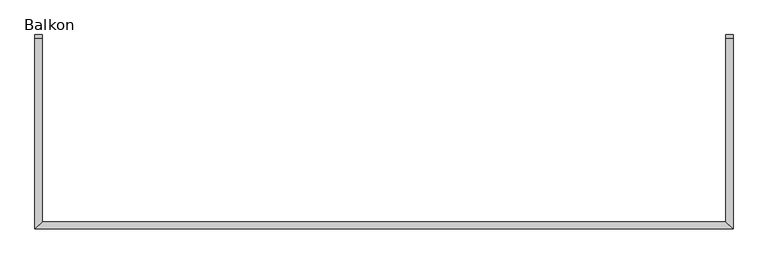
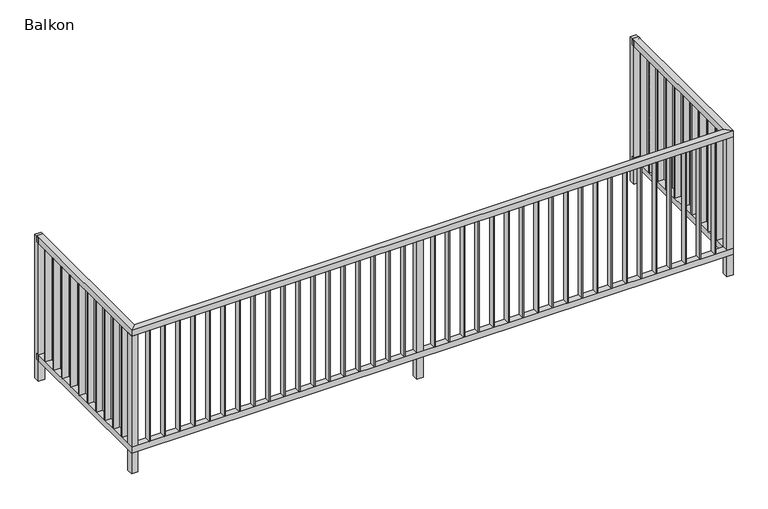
"""IFC4 building model written with IfcOpenShell, lengths in millimetres: railing geometry, Balkon."""

from ifc_helpers import new_model, si_unit, frame, origin, place, context, project, spatial, polyline, outline, extrude, faceted_brep, source, transform, mapped, element, save


def balkon_fbdb0a73(model_context):
    return source(origin(), model_context, "Body", "SolidModel", [
        faceted_brep([(-64686.8216237, -57878.7803424, 1060.0), (-64636.8216237, -57878.7803424, 1060.0), (-64636.8216237, -57878.7803424, 1010.0), (-64686.8216237, -57878.7803424, 1010.0), (-64686.8216237, -59153.7803424, 1060.0), (-64636.8216237, -59203.7803424, 1060.0), (-64636.8216237, -59203.7803424, 1010.0), (-64686.8216237, -59153.7803424, 1010.0), (-69436.8216237, -57878.7803424, 1060.0), (-69436.8216237, -57878.7803424, 1010.0), (-69486.8216237, -57878.7803424, 1010.0), (-69486.8216237, -57878.7803424, 1060.0), (-69486.8216237, -59203.7803424, 1060.0), (-69436.8216237, -59153.7803424, 1060.0), (-69486.8216237, -59203.7803424, 1010.0), (-69436.8216237, -59153.7803424, 1010.0)], [[[0, 1, 2, 3]], [[1, 0, 4, 5]], [[2, 1, 5, 6]], [[3, 2, 6, 7]], [[0, 3, 7, 4]], [[8, 9, 10, 11]], [[12, 13, 8, 11]], [[14, 12, 11, 10]], [[15, 14, 10, 9]], [[13, 15, 9, 8]], [[5, 4, 13, 12]], [[6, 5, 12, 14]], [[7, 6, 14, 15]], [[4, 7, 15, 13]]]),
        faceted_brep([(-64686.8216237, -57878.7803424, 60.0), (-64636.8216237, -57878.7803424, 60.0), (-64636.8216237, -57878.7803424, 10.0), (-64686.8216237, -57878.7803424, 10.0), (-64686.8216237, -59153.7803424, 60.0), (-64636.8216237, -59203.7803424, 60.0), (-64636.8216237, -59203.7803424, 10.0), (-64686.8216237, -59153.7803424, 10.0), (-69436.8216237, -57878.7803424, 60.0), (-69436.8216237, -57878.7803424, 10.0), (-69486.8216237, -57878.7803424, 10.0), (-69486.8216237, -57878.7803424, 60.0), (-69486.8216237, -59203.7803424, 60.0), (-69436.8216237, -59153.7803424, 60.0), (-69486.8216237, -59203.7803424, 10.0), (-69436.8216237, -59153.7803424, 10.0)], [[[0, 1, 2, 3]], [[1, 0, 4, 5]], [[2, 1, 5, 6]], [[3, 2, 6, 7]], [[0, 3, 7, 4]], [[8, 9, 10, 11]], [[12, 13, 8, 11]], [[14, 12, 11, 10]], [[15, 14, 10, 9]], [[13, 15, 9, 8]], [[5, 4, 13, 12]], [[6, 5, 12, 14]], [[7, 6, 14, 15]], [[4, 7, 15, 13]]]),
        extrude(outline(polyline([(-69436.8216237, -57992.9621606), (-69436.8216237, -58000.9621606), (-69486.8216237, -58000.9621606), (-69486.8216237, -57992.9621606), (-69436.8216237, -57992.9621606)])), frame((0.0, 0.0, 60.0), z_axis=(0.0, 0.0, 1.0), x_axis=(1.0, 0.0, 0.0)), (0.0, 0.0, 1.0), 950.0),
        extrude(outline(polyline([(-69436.8216237, -58111.1439787), (-69436.8216237, -58119.1439787), (-69486.8216237, -58119.1439787), (-69486.8216237, -58111.1439787), (-69436.8216237, -58111.1439787)])), frame((0.0, 0.0, 60.0), z_axis=(0.0, 0.0, 1.0), x_axis=(1.0, 0.0, 0.0)), (0.0, 0.0, 1.0), 950.0),
        extrude(outline(polyline([(-69436.8216237, -58229.3257969), (-69436.8216237, -58237.3257969), (-69486.8216237, -58237.3257969), (-69486.8216237, -58229.3257969), (-69436.8216237, -58229.3257969)])), frame((0.0, 0.0, 60.0), z_axis=(0.0, 0.0, 1.0), x_axis=(1.0, 0.0, 0.0)), (0.0, 0.0, 1.0), 950.0),
        extrude(outline(polyline([(-69436.8216237, -58347.5076151), (-69436.8216237, -58355.5076151), (-69486.8216237, -58355.5076151), (-69486.8216237, -58347.5076151), (-69436.8216237, -58347.5076151)])), frame((0.0, 0.0, 60.0), z_axis=(0.0, 0.0, 1.0), x_axis=(1.0, 0.0, 0.0)), (0.0, 0.0, 1.0), 950.0),
        extrude(outline(polyline([(-69436.8216237, -58465.6894333), (-69436.8216237, -58473.6894333), (-69486.8216237, -58473.6894333), (-69486.8216237, -58465.6894333), (-69436.8216237, -58465.6894333)])), frame((0.0, 0.0, 60.0), z_axis=(0.0, 0.0, 1.0), x_axis=(1.0, 0.0, 0.0)), (0.0, 0.0, 1.0), 950.0),
        extrude(outline(polyline([(-69436.8216237, -58583.8712515), (-69436.8216237, -58591.8712515), (-69486.8216237, -58591.8712515), (-69486.8216237, -58583.8712515), (-69436.8216237, -58583.8712515)])), frame((0.0, 0.0, 60.0), z_axis=(0.0, 0.0, 1.0), x_axis=(1.0, 0.0, 0.0)), (0.0, 0.0, 1.0), 950.0),
        extrude(outline(polyline([(-69436.8216237, -58702.0530696), (-69436.8216237, -58710.0530696), (-69486.8216237, -58710.0530696), (-69486.8216237, -58702.0530696), (-69436.8216237, -58702.0530696)])), frame((0.0, 0.0, 60.0), z_axis=(0.0, 0.0, 1.0), x_axis=(1.0, 0.0, 0.0)), (0.0, 0.0, 1.0), 950.0),
        extrude(outline(polyline([(-69436.8216237, -58820.2348878), (-69436.8216237, -58828.2348878), (-69486.8216237, -58828.2348878), (-69486.8216237, -58820.2348878), (-69436.8216237, -58820.2348878)])), frame((0.0, 0.0, 60.0), z_axis=(0.0, 0.0, 1.0), x_axis=(1.0, 0.0, 0.0)), (0.0, 0.0, 1.0), 950.0),
        extrude(outline(polyline([(-69436.8216237, -58938.416706), (-69436.8216237, -58946.416706), (-69486.8216237, -58946.416706), (-69486.8216237, -58938.416706), (-69436.8216237, -58938.416706)])), frame((0.0, 0.0, 60.0), z_axis=(0.0, 0.0, 1.0), x_axis=(1.0, 0.0, 0.0)), (0.0, 0.0, 1.0), 950.0),
        extrude(outline(polyline([(-69436.8216237, -59056.5985242), (-69436.8216237, -59064.5985242), (-69486.8216237, -59064.5985242), (-69486.8216237, -59056.5985242), (-69436.8216237, -59056.5985242)])), frame((0.0, 0.0, 60.0), z_axis=(0.0, 0.0, 1.0), x_axis=(1.0, 0.0, 0.0)), (0.0, 0.0, 1.0), 950.0),
        extrude(outline(polyline([(-69344.7689921, -59153.7803424), (-69336.7689921, -59153.7803424), (-69336.7689921, -59203.7803424), (-69344.7689921, -59203.7803424), (-69344.7689921, -59153.7803424)])), frame((0.0, 0.0, 60.0), z_axis=(0.0, 0.0, 1.0), x_axis=(1.0, 0.0, 0.0)), (0.0, 0.0, 1.0), 950.0),
        extrude(outline(polyline([(-69223.7163606, -59153.7803424), (-69215.7163606, -59153.7803424), (-69215.7163606, -59203.7803424), (-69223.7163606, -59203.7803424), (-69223.7163606, -59153.7803424)])), frame((0.0, 0.0, 60.0), z_axis=(0.0, 0.0, 1.0), x_axis=(1.0, 0.0, 0.0)), (0.0, 0.0, 1.0), 950.0),
        extrude(outline(polyline([(-69102.663729, -59153.7803424), (-69094.663729, -59153.7803424), (-69094.663729, -59203.7803424), (-69102.663729, -59203.7803424), (-69102.663729, -59153.7803424)])), frame((0.0, 0.0, 60.0), z_axis=(0.0, 0.0, 1.0), x_axis=(1.0, 0.0, 0.0)), (0.0, 0.0, 1.0), 950.0),
        extrude(outline(polyline([(-68981.6110974, -59153.7803424), (-68973.6110974, -59153.7803424), (-68973.6110974, -59203.7803424), (-68981.6110974, -59203.7803424), (-68981.6110974, -59153.7803424)])), frame((0.0, 0.0, 60.0), z_axis=(0.0, 0.0, 1.0), x_axis=(1.0, 0.0, 0.0)), (0.0, 0.0, 1.0), 950.0),
        extrude(outline(polyline([(-68860.5584658, -59153.7803424), (-68852.5584658, -59153.7803424), (-68852.5584658, -59203.7803424), (-68860.5584658, -59203.7803424), (-68860.5584658, -59153.7803424)])), frame((0.0, 0.0, 60.0), z_axis=(0.0, 0.0, 1.0), x_axis=(1.0, 0.0, 0.0)), (0.0, 0.0, 1.0), 950.0),
        extrude(outline(polyline([(-68739.5058342, -59153.7803424), (-68731.5058342, -59153.7803424), (-68731.5058342, -59203.7803424), (-68739.5058342, -59203.7803424), (-68739.5058342, -59153.7803424)])), frame((0.0, 0.0, 60.0), z_axis=(0.0, 0.0, 1.0), x_axis=(1.0, 0.0, 0.0)), (0.0, 0.0, 1.0), 950.0),
        extrude(outline(polyline([(-68618.4532027, -59153.7803424), (-68610.4532027, -59153.7803424), (-68610.4532027, -59203.7803424), (-68618.4532027, -59203.7803424), (-68618.4532027, -59153.7803424)])), frame((0.0, 0.0, 60.0), z_axis=(0.0, 0.0, 1.0), x_axis=(1.0, 0.0, 0.0)), (0.0, 0.0, 1.0), 950.0),
        extrude(outline(polyline([(-68497.4005711, -59153.7803424), (-68489.4005711, -59153.7803424), (-68489.4005711, -59203.7803424), (-68497.4005711, -59203.7803424), (-68497.4005711, -59153.7803424)])), frame((0.0, 0.0, 60.0), z_axis=(0.0, 0.0, 1.0), x_axis=(1.0, 0.0, 0.0)), (0.0, 0.0, 1.0), 950.0),
        extrude(outline(polyline([(-68376.3479395, -59153.7803424), (-68368.3479395, -59153.7803424), (-68368.3479395, -59203.7803424), (-68376.3479395, -59203.7803424), (-68376.3479395, -59153.7803424)])), frame((0.0, 0.0, 60.0), z_axis=(0.0, 0.0, 1.0), x_axis=(1.0, 0.0, 0.0)), (0.0, 0.0, 1.0), 950.0),
        extrude(outline(polyline([(-68255.2953079, -59153.7803424), (-68247.2953079, -59153.7803424), (-68247.2953079, -59203.7803424), (-68255.2953079, -59203.7803424), (-68255.2953079, -59153.7803424)])), frame((0.0, 0.0, 60.0), z_axis=(0.0, 0.0, 1.0), x_axis=(1.0, 0.0, 0.0)), (0.0, 0.0, 1.0), 950.0),
        extrude(outline(polyline([(-68134.2426763, -59153.7803424), (-68126.2426763, -59153.7803424), (-68126.2426763, -59203.7803424), (-68134.2426763, -59203.7803424), (-68134.2426763, -59153.7803424)])), frame((0.0, 0.0, 60.0), z_axis=(0.0, 0.0, 1.0), x_axis=(1.0, 0.0, 0.0)), (0.0, 0.0, 1.0), 950.0),
        extrude(outline(polyline([(-68013.1900448, -59153.7803424), (-68005.1900448, -59153.7803424), (-68005.1900448, -59203.7803424), (-68013.1900448, -59203.7803424), (-68013.1900448, -59153.7803424)])), frame((0.0, 0.0, 60.0), z_axis=(0.0, 0.0, 1.0), x_axis=(1.0, 0.0, 0.0)), (0.0, 0.0, 1.0), 950.0),
        extrude(outline(polyline([(-67892.1374132, -59153.7803424), (-67884.1374132, -59153.7803424), (-67884.1374132, -59203.7803424), (-67892.1374132, -59203.7803424), (-67892.1374132, -59153.7803424)])), frame((0.0, 0.0, 60.0), z_axis=(0.0, 0.0, 1.0), x_axis=(1.0, 0.0, 0.0)), (0.0, 0.0, 1.0), 950.0),
        extrude(outline(polyline([(-67771.0847816, -59153.7803424), (-67763.0847816, -59153.7803424), (-67763.0847816, -59203.7803424), (-67771.0847816, -59203.7803424), (-67771.0847816, -59153.7803424)])), frame((0.0, 0.0, 60.0), z_axis=(0.0, 0.0, 1.0), x_axis=(1.0, 0.0, 0.0)), (0.0, 0.0, 1.0), 950.0),
        extrude(outline(polyline([(-67650.03215, -59153.7803424), (-67642.03215, -59153.7803424), (-67642.03215, -59203.7803424), (-67650.03215, -59203.7803424), (-67650.03215, -59153.7803424)])), frame((0.0, 0.0, 60.0), z_axis=(0.0, 0.0, 1.0), x_axis=(1.0, 0.0, 0.0)), (0.0, 0.0, 1.0), 950.0),
        extrude(outline(polyline([(-67528.9795184, -59153.7803424), (-67520.9795184, -59153.7803424), (-67520.9795184, -59203.7803424), (-67528.9795184, -59203.7803424), (-67528.9795184, -59153.7803424)])), frame((0.0, 0.0, 60.0), z_axis=(0.0, 0.0, 1.0), x_axis=(1.0, 0.0, 0.0)), (0.0, 0.0, 1.0), 950.0),
        extrude(outline(polyline([(-67407.9268869, -59153.7803424), (-67399.9268869, -59153.7803424), (-67399.9268869, -59203.7803424), (-67407.9268869, -59203.7803424), (-67407.9268869, -59153.7803424)])), frame((0.0, 0.0, 60.0), z_axis=(0.0, 0.0, 1.0), x_axis=(1.0, 0.0, 0.0)), (0.0, 0.0, 1.0), 950.0),
        extrude(outline(polyline([(-67286.8742553, -59153.7803424), (-67278.8742553, -59153.7803424), (-67278.8742553, -59203.7803424), (-67286.8742553, -59203.7803424), (-67286.8742553, -59153.7803424)])), frame((0.0, 0.0, 60.0), z_axis=(0.0, 0.0, 1.0), x_axis=(1.0, 0.0, 0.0)), (0.0, 0.0, 1.0), 950.0),
        extrude(outline(polyline([(-67046.7740047, -59153.7803424), (-67038.7740047, -59153.7803424), (-67038.7740047, -59203.7803424), (-67046.7740047, -59203.7803424), (-67046.7740047, -59153.7803424)])), frame((0.0, 0.0, 60.0), z_axis=(0.0, 0.0, 1.0), x_axis=(1.0, 0.0, 0.0)), (0.0, 0.0, 1.0), 950.0),
        extrude(outline(polyline([(-66927.7263856, -59153.7803424), (-66919.7263856, -59153.7803424), (-66919.7263856, -59203.7803424), (-66927.7263856, -59203.7803424), (-66927.7263856, -59153.7803424)])), frame((0.0, 0.0, 60.0), z_axis=(0.0, 0.0, 1.0), x_axis=(1.0, 0.0, 0.0)), (0.0, 0.0, 1.0), 950.0),
        extrude(outline(polyline([(-66808.6787666, -59153.7803424), (-66800.6787666, -59153.7803424), (-66800.6787666, -59203.7803424), (-66808.6787666, -59203.7803424), (-66808.6787666, -59153.7803424)])), frame((0.0, 0.0, 60.0), z_axis=(0.0, 0.0, 1.0), x_axis=(1.0, 0.0, 0.0)), (0.0, 0.0, 1.0), 950.0),
        extrude(outline(polyline([(-66689.6311475, -59153.7803424), (-66681.6311475, -59153.7803424), (-66681.6311475, -59203.7803424), (-66689.6311475, -59203.7803424), (-66689.6311475, -59153.7803424)])), frame((0.0, 0.0, 60.0), z_axis=(0.0, 0.0, 1.0), x_axis=(1.0, 0.0, 0.0)), (0.0, 0.0, 1.0), 950.0),
        extrude(outline(polyline([(-66570.5835285, -59153.7803424), (-66562.5835285, -59153.7803424), (-66562.5835285, -59203.7803424), (-66570.5835285, -59203.7803424), (-66570.5835285, -59153.7803424)])), frame((0.0, 0.0, 60.0), z_axis=(0.0, 0.0, 1.0), x_axis=(1.0, 0.0, 0.0)), (0.0, 0.0, 1.0), 950.0),
        extrude(outline(polyline([(-66451.5359094, -59153.7803424), (-66443.5359094, -59153.7803424), (-66443.5359094, -59203.7803424), (-66451.5359094, -59203.7803424), (-66451.5359094, -59153.7803424)])), frame((0.0, 0.0, 60.0), z_axis=(0.0, 0.0, 1.0), x_axis=(1.0, 0.0, 0.0)), (0.0, 0.0, 1.0), 950.0),
        extrude(outline(polyline([(-66332.4882904, -59153.7803424), (-66324.4882904, -59153.7803424), (-66324.4882904, -59203.7803424), (-66332.4882904, -59203.7803424), (-66332.4882904, -59153.7803424)])), frame((0.0, 0.0, 60.0), z_axis=(0.0, 0.0, 1.0), x_axis=(1.0, 0.0, 0.0)), (0.0, 0.0, 1.0), 950.0),
        extrude(outline(polyline([(-66213.4406713, -59153.7803424), (-66205.4406713, -59153.7803424), (-66205.4406713, -59203.7803424), (-66213.4406713, -59203.7803424), (-66213.4406713, -59153.7803424)])), frame((0.0, 0.0, 60.0), z_axis=(0.0, 0.0, 1.0), x_axis=(1.0, 0.0, 0.0)), (0.0, 0.0, 1.0), 950.0),
        extrude(outline(polyline([(-66094.3930523, -59153.7803424), (-66086.3930523, -59153.7803424), (-66086.3930523, -59203.7803424), (-66094.3930523, -59203.7803424), (-66094.3930523, -59153.7803424)])), frame((0.0, 0.0, 60.0), z_axis=(0.0, 0.0, 1.0), x_axis=(1.0, 0.0, 0.0)), (0.0, 0.0, 1.0), 950.0),
        extrude(outline(polyline([(-65975.3454332, -59153.7803424), (-65967.3454332, -59153.7803424), (-65967.3454332, -59203.7803424), (-65975.3454332, -59203.7803424), (-65975.3454332, -59153.7803424)])), frame((0.0, 0.0, 60.0), z_axis=(0.0, 0.0, 1.0), x_axis=(1.0, 0.0, 0.0)), (0.0, 0.0, 1.0), 950.0),
        extrude(outline(polyline([(-65856.2978142, -59153.7803424), (-65848.2978142, -59153.7803424), (-65848.2978142, -59203.7803424), (-65856.2978142, -59203.7803424), (-65856.2978142, -59153.7803424)])), frame((0.0, 0.0, 60.0), z_axis=(0.0, 0.0, 1.0), x_axis=(1.0, 0.0, 0.0)), (0.0, 0.0, 1.0), 950.0),
        extrude(outline(polyline([(-65737.2501951, -59153.7803424), (-65729.2501951, -59153.7803424), (-65729.2501951, -59203.7803424), (-65737.2501951, -59203.7803424), (-65737.2501951, -59153.7803424)])), frame((0.0, 0.0, 60.0), z_axis=(0.0, 0.0, 1.0), x_axis=(1.0, 0.0, 0.0)), (0.0, 0.0, 1.0), 950.0),
        extrude(outline(polyline([(-65618.2025761, -59153.7803424), (-65610.2025761, -59153.7803424), (-65610.2025761, -59203.7803424), (-65618.2025761, -59203.7803424), (-65618.2025761, -59153.7803424)])), frame((0.0, 0.0, 60.0), z_axis=(0.0, 0.0, 1.0), x_axis=(1.0, 0.0, 0.0)), (0.0, 0.0, 1.0), 950.0),
        extrude(outline(polyline([(-65499.154957, -59153.7803424), (-65491.154957, -59153.7803424), (-65491.154957, -59203.7803424), (-65499.154957, -59203.7803424), (-65499.154957, -59153.7803424)])), frame((0.0, 0.0, 60.0), z_axis=(0.0, 0.0, 1.0), x_axis=(1.0, 0.0, 0.0)), (0.0, 0.0, 1.0), 950.0),
        extrude(outline(polyline([(-65380.107338, -59153.7803424), (-65372.107338, -59153.7803424), (-65372.107338, -59203.7803424), (-65380.107338, -59203.7803424), (-65380.107338, -59153.7803424)])), frame((0.0, 0.0, 60.0), z_axis=(0.0, 0.0, 1.0), x_axis=(1.0, 0.0, 0.0)), (0.0, 0.0, 1.0), 950.0),
        extrude(outline(polyline([(-65261.059719, -59153.7803424), (-65253.059719, -59153.7803424), (-65253.059719, -59203.7803424), (-65261.059719, -59203.7803424), (-65261.059719, -59153.7803424)])), frame((0.0, 0.0, 60.0), z_axis=(0.0, 0.0, 1.0), x_axis=(1.0, 0.0, 0.0)), (0.0, 0.0, 1.0), 950.0),
        extrude(outline(polyline([(-65142.0120999, -59153.7803424), (-65134.0120999, -59153.7803424), (-65134.0120999, -59203.7803424), (-65142.0120999, -59203.7803424), (-65142.0120999, -59153.7803424)])), frame((0.0, 0.0, 60.0), z_axis=(0.0, 0.0, 1.0), x_axis=(1.0, 0.0, 0.0)), (0.0, 0.0, 1.0), 950.0),
        extrude(outline(polyline([(-65022.9644809, -59153.7803424), (-65014.9644809, -59153.7803424), (-65014.9644809, -59203.7803424), (-65022.9644809, -59203.7803424), (-65022.9644809, -59153.7803424)])), frame((0.0, 0.0, 60.0), z_axis=(0.0, 0.0, 1.0), x_axis=(1.0, 0.0, 0.0)), (0.0, 0.0, 1.0), 950.0),
        extrude(outline(polyline([(-64903.9168618, -59153.7803424), (-64895.9168618, -59153.7803424), (-64895.9168618, -59203.7803424), (-64903.9168618, -59203.7803424), (-64903.9168618, -59153.7803424)])), frame((0.0, 0.0, 60.0), z_axis=(0.0, 0.0, 1.0), x_axis=(1.0, 0.0, 0.0)), (0.0, 0.0, 1.0), 950.0),
        extrude(outline(polyline([(-64784.8692428, -59153.7803424), (-64776.8692428, -59153.7803424), (-64776.8692428, -59203.7803424), (-64784.8692428, -59203.7803424), (-64784.8692428, -59153.7803424)])), frame((0.0, 0.0, 60.0), z_axis=(0.0, 0.0, 1.0), x_axis=(1.0, 0.0, 0.0)), (0.0, 0.0, 1.0), 950.0),
        extrude(outline(polyline([(-64686.8216237, -59064.5985242), (-64686.8216237, -59056.5985242), (-64636.8216237, -59056.5985242), (-64636.8216237, -59064.5985242), (-64686.8216237, -59064.5985242)])), frame((0.0, 0.0, 60.0), z_axis=(0.0, 0.0, 1.0), x_axis=(1.0, 0.0, 0.0)), (0.0, 0.0, 1.0), 950.0),
        extrude(outline(polyline([(-64686.8216237, -58946.416706), (-64686.8216237, -58938.416706), (-64636.8216237, -58938.416706), (-64636.8216237, -58946.416706), (-64686.8216237, -58946.416706)])), frame((0.0, 0.0, 60.0), z_axis=(0.0, 0.0, 1.0), x_axis=(1.0, 0.0, 0.0)), (0.0, 0.0, 1.0), 950.0),
        extrude(outline(polyline([(-64686.8216237, -58828.2348878), (-64686.8216237, -58820.2348878), (-64636.8216237, -58820.2348878), (-64636.8216237, -58828.2348878), (-64686.8216237, -58828.2348878)])), frame((0.0, 0.0, 60.0), z_axis=(0.0, 0.0, 1.0), x_axis=(1.0, 0.0, 0.0)), (0.0, 0.0, 1.0), 950.0),
        extrude(outline(polyline([(-64686.8216237, -58710.0530696), (-64686.8216237, -58702.0530696), (-64636.8216237, -58702.0530696), (-64636.8216237, -58710.0530696), (-64686.8216237, -58710.0530696)])), frame((0.0, 0.0, 60.0), z_axis=(0.0, 0.0, 1.0), x_axis=(1.0, 0.0, 0.0)), (0.0, 0.0, 1.0), 950.0),
        extrude(outline(polyline([(-64686.8216237, -58591.8712515), (-64686.8216237, -58583.8712515), (-64636.8216237, -58583.8712515), (-64636.8216237, -58591.8712515), (-64686.8216237, -58591.8712515)])), frame((0.0, 0.0, 60.0), z_axis=(0.0, 0.0, 1.0), x_axis=(1.0, 0.0, 0.0)), (0.0, 0.0, 1.0), 950.0),
        extrude(outline(polyline([(-64686.8216237, -58473.6894333), (-64686.8216237, -58465.6894333), (-64636.8216237, -58465.6894333), (-64636.8216237, -58473.6894333), (-64686.8216237, -58473.6894333)])), frame((0.0, 0.0, 60.0), z_axis=(0.0, 0.0, 1.0), x_axis=(1.0, 0.0, 0.0)), (0.0, 0.0, 1.0), 950.0),
        extrude(outline(polyline([(-64686.8216237, -58355.5076151), (-64686.8216237, -58347.5076151), (-64636.8216237, -58347.5076151), (-64636.8216237, -58355.5076151), (-64686.8216237, -58355.5076151)])), frame((0.0, 0.0, 60.0), z_axis=(0.0, 0.0, 1.0), x_axis=(1.0, 0.0, 0.0)), (0.0, 0.0, 1.0), 950.0),
        extrude(outline(polyline([(-64686.8216237, -58237.3257969), (-64686.8216237, -58229.3257969), (-64636.8216237, -58229.3257969), (-64636.8216237, -58237.3257969), (-64686.8216237, -58237.3257969)])), frame((0.0, 0.0, 60.0), z_axis=(0.0, 0.0, 1.0), x_axis=(1.0, 0.0, 0.0)), (0.0, 0.0, 1.0), 950.0),
        extrude(outline(polyline([(-64686.8216237, -58119.1439787), (-64686.8216237, -58111.1439787), (-64636.8216237, -58111.1439787), (-64636.8216237, -58119.1439787), (-64686.8216237, -58119.1439787)])), frame((0.0, 0.0, 60.0), z_axis=(0.0, 0.0, 1.0), x_axis=(1.0, 0.0, 0.0)), (0.0, 0.0, 1.0), 950.0),
        extrude(outline(polyline([(-64686.8216237, -58000.9621606), (-64686.8216237, -57992.9621606), (-64636.8216237, -57992.9621606), (-64636.8216237, -58000.9621606), (-64686.8216237, -58000.9621606)])), frame((0.0, 0.0, 60.0), z_axis=(0.0, 0.0, 1.0), x_axis=(1.0, 0.0, 0.0)), (0.0, 0.0, 1.0), 950.0),
        extrude(outline(polyline([(-69436.8216237, -59153.7803424), (-69436.8216237, -59203.7803424), (-69486.8216237, -59203.7803424), (-69486.8216237, -59153.7803424), (-69436.8216237, -59153.7803424)])), frame((0.0, 0.0, -165.0), z_axis=(0.0, 0.0, 1.0), x_axis=(1.0, 0.0, 0.0)), (0.0, 0.0, 1.0), 1175.0),
        extrude(outline(polyline([(-67136.8216237, -59153.7803424), (-67136.8216237, -59203.7803424), (-67186.8216237, -59203.7803424), (-67186.8216237, -59153.7803424), (-67136.8216237, -59153.7803424)])), frame((0.0, 0.0, -165.0), z_axis=(0.0, 0.0, 1.0), x_axis=(1.0, 0.0, 0.0)), (0.0, 0.0, 1.0), 1175.0),
        extrude(outline(polyline([(-64686.8216237, -59153.7803424), (-64636.8216237, -59153.7803424), (-64636.8216237, -59203.7803424), (-64686.8216237, -59203.7803424), (-64686.8216237, -59153.7803424)])), frame((0.0, 0.0, -165.0), z_axis=(0.0, 0.0, 1.0), x_axis=(1.0, 0.0, 0.0)), (0.0, 0.0, 1.0), 1175.0),
        extrude(outline(polyline([(-69436.8216237, -57903.7803424), (-69486.8216237, -57903.7803424), (-69486.8216237, -57853.7803424), (-69436.8216237, -57853.7803424), (-69436.8216237, -57903.7803424)])), frame((0.0, 0.0, -165.0), z_axis=(0.0, 0.0, 1.0), x_axis=(1.0, 0.0, 0.0)), (0.0, 0.0, 1.0), 1225.1),
        extrude(outline(polyline([(-64686.8216237, -57853.7803424), (-64636.8216237, -57853.7803424), (-64636.8216237, -57903.7803424), (-64686.8216237, -57903.7803424), (-64686.8216237, -57853.7803424)])), frame((0.0, 0.0, -165.0), z_axis=(0.0, 0.0, 1.0), x_axis=(1.0, 0.0, 0.0)), (0.0, 0.0, 1.0), 1225.1),
    ])


if __name__ == "__main__":
    model = new_model("IFC4")
    model_context = context("Model", 3, world=origin())
    ifc_project = project(units=[si_unit("LENGTHUNIT", "METRE", prefix="MILLI")], contexts=[model_context])
    site = spatial("IfcSite", under=ifc_project)
    building = spatial("IfcBuilding", under=site)
    placement = place(None, origin())
    balkon_shape = balkon_fbdb0a73(model_context)
    element("IfcRailing", 1, ObjectType="Balkon", at=placement, inside=building, context=model_context, shape_type="MappedRepresentation", body=[
        mapped(balkon_shape, transform((0.0, 0.0, 0.0), x_axis=(1.0, 0.0, 0.0), y_axis=(0.0, 1.0, 0.0), z_axis=(0.0, 0.0, 1.0))),
    ])
    save(model, "model.ifc")
